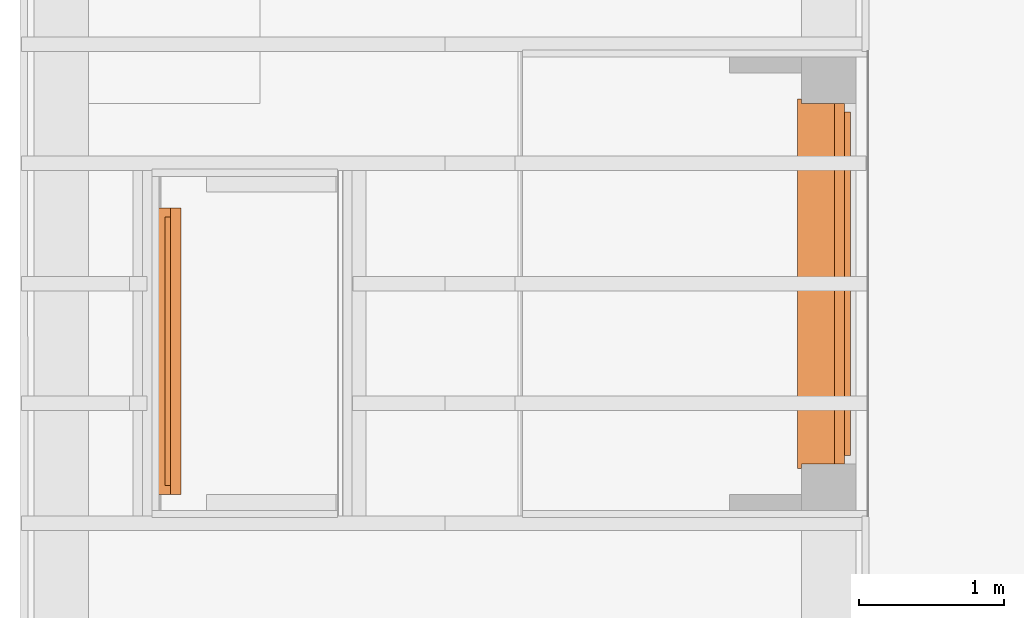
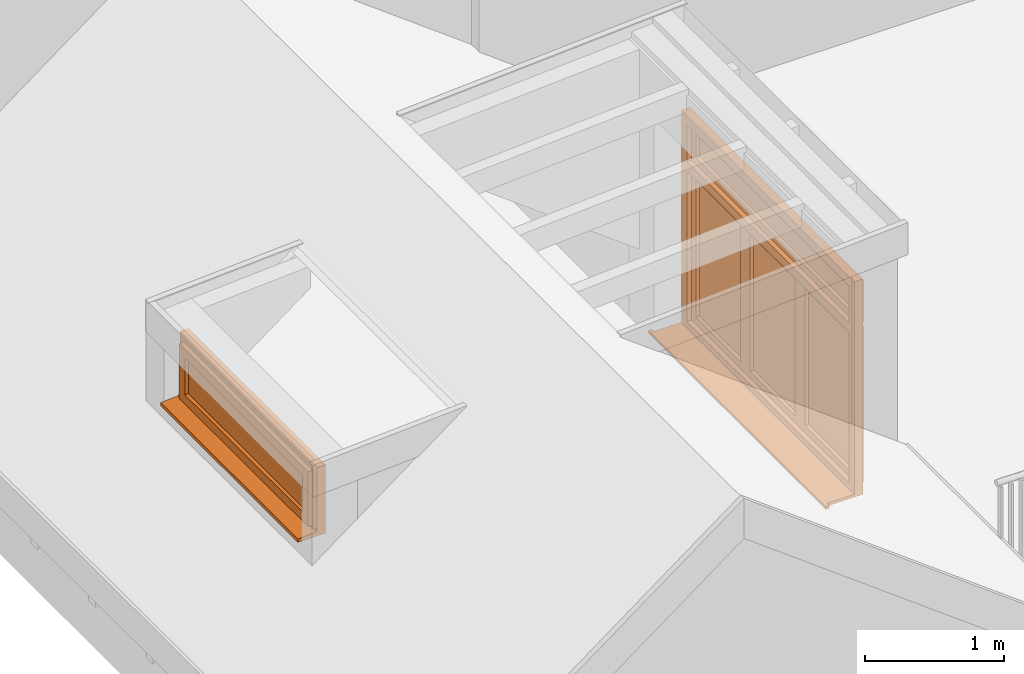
# One storey, part 13 of 15: 2 proxies.
"""IFC4 building model written with IfcOpenShell, lengths in metres."""

from ifc_helpers import new_model, entity, si_unit, converted_unit, derived_unit, direction, frame, origin_with_axes, place, context, subcontext, project, spatial, triangles, type_object, element, save


model = new_model("IFC4")

# Units and contexts
model_context = context("Model", 3, precision=1e-05, world=origin_with_axes(), true_north=direction((-0.526213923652, 0.850352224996)))
body_context = subcontext(model_context, "Body", "Model", "MODEL_VIEW")
ifc_project = project(units=[si_unit("LENGTHUNIT", "METRE"), si_unit("AREAUNIT", "SQUARE_METRE"), si_unit("VOLUMEUNIT", "CUBIC_METRE"), converted_unit("PLANEANGLEUNIT", "DEGREE", entity("IfcPlaneAngleMeasure", 0.0174532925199), si_unit("PLANEANGLEUNIT", "RADIAN"), dimensions=[0, 0, 0, 0, 0, 0, 0]), si_unit("SOLIDANGLEUNIT", "STERADIAN"), converted_unit("TIMEUNIT", "Year", entity("IfcTimeMeasure", 31556926.0), si_unit("TIMEUNIT", "SECOND"), dimensions=[0, 0, 1, 0, 0, 0, 0]), si_unit("MASSUNIT", "GRAM", prefix="KILO"), si_unit("THERMODYNAMICTEMPERATUREUNIT", "DEGREE_CELSIUS"), si_unit("LUMINOUSINTENSITYUNIT", "LUMEN"), si_unit("ENERGYUNIT", "JOULE", prefix="MEGA"), derived_unit("THERMALCONDUCTANCEUNIT", [(si_unit("POWERUNIT", "WATT"), 1), (si_unit("LENGTHUNIT", "METRE"), -1), (si_unit("THERMODYNAMICTEMPERATUREUNIT", "KELVIN"), -1)]), derived_unit("SPECIFICHEATCAPACITYUNIT", [(si_unit("ENERGYUNIT", "JOULE"), 1), (si_unit("MASSUNIT", "GRAM", prefix="KILO"), -1), (si_unit("THERMODYNAMICTEMPERATUREUNIT", "KELVIN"), -1)]), derived_unit("MASSDENSITYUNIT", [(si_unit("MASSUNIT", "GRAM", prefix="KILO"), 1), (si_unit("VOLUMEUNIT", "CUBIC_METRE"), -1)])], contexts=[model_context])

# Site, building, storey
site_placement = place(None, origin_with_axes())
site = spatial("IfcSite", under=ifc_project, at=site_placement, Name="Gelände", CompositionType="ELEMENT")
building_placement = place(site_placement, origin_with_axes())
building = spatial("IfcBuilding", under=site, at=building_placement, Name="Haus vom Nikolaus", CompositionType="ELEMENT")
storey_placement = place(building_placement, frame((0.0, 0.0, 3.75), z_axis=(0.0, 0.0, 1.0), x_axis=(1.0, 0.0, 0.0)))
storey = spatial("IfcBuildingStorey", under=building, at=storey_placement, Name="1. OG", CompositionType="ELEMENT", Elevation=3.75)

# Proxies
building_element_proxy_type_1 = type_object("IfcBuildingElementProxyType", Name="3-Flügelfenster 22", PredefinedType="NOTDEFINED")
proxy_1_placement = place(storey_placement, frame((5.17038204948, 4.7392015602, 0.211961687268), z_axis=(0.0, 0.0, 1.0), x_axis=(2.86144443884e-10, -1.0, 0.0)))
element("IfcBuildingElementProxy", 1, at=proxy_1_placement, inside=storey, type_object=building_element_proxy_type_1, Name="Fenster-011", PredefinedType="NOTDEFINED", context=body_context, shape_type="Tessellation", body=[
    triangles([(2.48299999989, 1.02587272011e-10, 0.025), (2.48299999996, 0.225000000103, 0.0), (2.48299999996, 0.225000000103, 0.025), (2.48299999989, 1.02587272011e-10, 0.0), (0.0, 0.225000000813, 0.0), (0.0, 0.225000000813, 0.025), (2.51299999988, -0.029999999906, 0.025), (-1.07303499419e-10, 8.13084710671e-10, 0.025), (-0.0300000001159, -0.0299999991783, 0.025), (-0.0300000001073, 8.21668955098e-10, 0.025), (2.51299999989, 0.0, 0.025), (2.51299999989, 0.0, 0.0), (2.51299999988, -0.029999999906, 0.0), (-1.07303499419e-10, 8.13084710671e-10, 0.0), (-0.0300000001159, -0.0299999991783, 0.0), (-0.0300000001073, 8.21668955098e-10, 0.0)], [[1, 2, 3], [1, 4, 2], [3, 5, 6], [3, 2, 5], [7, 8, 9], [8, 3, 6], [9, 8, 10], [11, 1, 7], [1, 3, 8], [7, 1, 8], [11, 4, 1], [11, 12, 4], [12, 13, 4], [14, 4, 15], [15, 4, 13], [14, 5, 2], [14, 15, 16], [4, 14, 2], [6, 14, 8], [6, 5, 14], [8, 16, 10], [8, 14, 16], [10, 15, 9], [10, 16, 15], [9, 13, 7], [9, 15, 13], [7, 12, 11], [7, 13, 12]], closed=True),
    triangles([(0.0799999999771, 0.29500000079, 0.08), (0.0, 0.225000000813, 0.0), (0.0, 0.295000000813, 0.0), (0.0799999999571, 0.22500000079, 0.08), (0.0, 0.295000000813, 1.886), (0.0, 0.225000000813, 1.886), (0.0799999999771, 0.29500000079, 1.48), (0.0799999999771, 0.29500000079, 1.806), (0.0799999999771, 0.29500000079, 1.4), (0.0799999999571, 0.22500000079, 1.4), (0.0799999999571, 0.22500000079, 1.48), (0.0799999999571, 0.22500000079, 1.806)], [[1, 2, 3], [1, 4, 2], [2, 5, 3], [5, 2, 6], [7, 5, 8], [5, 9, 3], [9, 5, 7], [1, 3, 9], [9, 4, 1], [9, 10, 4], [6, 2, 10], [10, 2, 4], [6, 10, 11], [6, 11, 12], [6, 8, 5], [8, 6, 12], [8, 11, 7], [8, 12, 11], [7, 10, 9], [7, 11, 10]], closed=True),
    triangles([(2.48299999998, 0.295000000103, 1.886), (2.48299999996, 0.225000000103, 0.0), (2.48299999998, 0.295000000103, 0.0), (2.48299999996, 0.225000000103, 1.886), (2.40299999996, 0.225000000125, 0.08), (2.40299999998, 0.295000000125, 0.08), (2.40299999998, 0.295000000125, 1.4), (2.40299999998, 0.295000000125, 1.48), (2.40299999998, 0.295000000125, 1.806), (2.40299999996, 0.225000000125, 1.806), (2.40299999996, 0.225000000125, 1.48), (2.40299999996, 0.225000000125, 1.4)], [[1, 2, 3], [1, 4, 2], [3, 5, 6], [3, 2, 5], [1, 3, 7], [7, 3, 6], [1, 7, 8], [1, 8, 9], [9, 4, 1], [9, 10, 4], [11, 4, 10], [4, 12, 2], [12, 4, 11], [5, 2, 12], [6, 12, 7], [6, 5, 12], [7, 11, 8], [7, 12, 11], [8, 10, 9], [8, 11, 10]], closed=True),
    triangles([(2.48299999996, 0.225000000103, 0.0), (0.0, 0.295000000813, 0.0), (2.48299999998, 0.295000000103, 0.0), (0.0, 0.225000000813, 0.0), (0.0799999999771, 0.29500000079, 0.08), (0.0799999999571, 0.22500000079, 0.08), (2.40299999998, 0.295000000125, 0.08), (2.40299999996, 0.225000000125, 0.08)], [[1, 2, 3], [2, 1, 4], [4, 5, 2], [5, 4, 6], [3, 2, 7], [7, 2, 5], [8, 3, 7], [3, 8, 1], [8, 4, 1], [8, 6, 4], [5, 8, 7], [5, 6, 8]], closed=True),
    triangles([(0.0799999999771, 0.29500000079, 1.806), (0.0, 0.225000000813, 1.886), (0.0, 0.295000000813, 1.886), (0.0799999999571, 0.22500000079, 1.806), (2.48299999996, 0.225000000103, 1.886), (2.48299999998, 0.295000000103, 1.886), (2.40299999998, 0.295000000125, 1.806), (2.40299999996, 0.225000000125, 1.806)], [[1, 2, 3], [1, 4, 2], [3, 5, 6], [3, 2, 5], [7, 3, 6], [7, 1, 3], [8, 1, 7], [1, 8, 4], [5, 2, 8], [8, 2, 4], [5, 7, 6], [7, 5, 8]], closed=True),
    triangles([(1.24149999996, 0.225000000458, 1.4), (0.0799999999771, 0.29500000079, 1.4), (1.24149999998, 0.295000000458, 1.4), (0.0799999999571, 0.22500000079, 1.4), (0.0799999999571, 0.22500000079, 1.48), (0.0799999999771, 0.29500000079, 1.48), (2.40299999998, 0.295000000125, 1.48), (2.40299999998, 0.295000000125, 1.4), (2.40299999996, 0.225000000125, 1.4), (2.40299999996, 0.225000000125, 1.48)], [[1, 2, 3], [2, 1, 4], [2, 5, 6], [2, 4, 5], [6, 3, 2], [3, 6, 7], [3, 7, 8], [9, 3, 8], [3, 9, 1], [10, 1, 9], [10, 5, 1], [1, 5, 4], [6, 10, 7], [6, 5, 10], [7, 9, 8], [7, 10, 9]], closed=True),
    triangles([(0.139999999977, 0.295000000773, 0.14), (0.0599999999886, 0.335000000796, 0.06), (0.139999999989, 0.335000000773, 0.14), (0.0599999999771, 0.295000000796, 0.06), (0.0599999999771, 0.295000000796, 1.42), (0.0599999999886, 0.335000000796, 1.42), (0.139999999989, 0.335000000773, 1.34), (0.139999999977, 0.295000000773, 1.34)], [[1, 2, 3], [2, 1, 4], [2, 5, 6], [2, 4, 5], [7, 2, 6], [7, 3, 2], [7, 1, 3], [7, 8, 1], [1, 5, 4], [5, 1, 8], [6, 8, 7], [6, 5, 8]], closed=True),
    triangles([(0.777666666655, 0.335000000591, 0.14), (0.857666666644, 0.295000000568, 0.06), (0.777666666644, 0.295000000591, 0.14), (0.857666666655, 0.335000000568, 0.06), (0.777666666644, 0.295000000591, 1.34), (0.857666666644, 0.295000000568, 1.42), (0.777666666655, 0.335000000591, 1.34), (0.857666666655, 0.335000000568, 1.42)], [[1, 2, 3], [1, 4, 2], [5, 2, 6], [5, 3, 2], [7, 3, 5], [7, 1, 3], [1, 8, 4], [8, 1, 7], [4, 6, 2], [4, 8, 6], [8, 5, 6], [8, 7, 5]], closed=True),
    triangles([(0.857666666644, 0.295000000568, 0.06), (0.0599999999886, 0.335000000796, 0.06), (0.857666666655, 0.335000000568, 0.06), (0.0599999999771, 0.295000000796, 0.06), (0.139999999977, 0.295000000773, 0.14), (0.139999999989, 0.335000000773, 0.14), (0.777666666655, 0.335000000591, 0.14), (0.777666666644, 0.295000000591, 0.14)], [[1, 2, 3], [2, 1, 4], [2, 5, 6], [2, 4, 5], [6, 3, 2], [3, 6, 7], [7, 1, 3], [7, 8, 1], [5, 1, 8], [1, 5, 4], [6, 8, 7], [6, 5, 8]], closed=True),
    triangles([(0.0599999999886, 0.335000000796, 1.42), (0.857666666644, 0.295000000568, 1.42), (0.857666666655, 0.335000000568, 1.42), (0.0599999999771, 0.295000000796, 1.42), (0.139999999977, 0.295000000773, 1.34), (0.777666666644, 0.295000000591, 1.34), (0.777666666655, 0.335000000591, 1.34), (0.139999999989, 0.335000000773, 1.34)], [[1, 2, 3], [2, 1, 4], [5, 2, 4], [2, 5, 6], [7, 2, 6], [7, 3, 2], [8, 3, 7], [3, 8, 1], [1, 5, 4], [1, 8, 5], [8, 6, 5], [8, 7, 6]], closed=True),
    triangles([(0.139999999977, 0.295000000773, 0.14), (0.0799999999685, 0.26500000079, 0.08), (0.0799999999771, 0.29500000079, 0.08), (0.139999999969, 0.265000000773, 0.14), (0.0799999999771, 0.29500000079, 1.4), (0.0799999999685, 0.26500000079, 1.4), (0.139999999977, 0.295000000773, 1.34), (0.139999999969, 0.265000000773, 1.34)], [[1, 2, 3], [1, 4, 2], [2, 5, 3], [5, 2, 6], [7, 3, 5], [7, 1, 3], [7, 4, 1], [7, 8, 4], [6, 2, 8], [8, 2, 4], [5, 8, 7], [5, 6, 8]], closed=True),
    triangles([(0.837666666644, 0.295000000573, 0.08), (0.777666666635, 0.265000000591, 0.14), (0.777666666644, 0.295000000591, 0.14), (0.837666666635, 0.265000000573, 0.08), (0.777666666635, 0.265000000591, 1.34), (0.837666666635, 0.265000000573, 1.4), (0.777666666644, 0.295000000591, 1.34), (0.837666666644, 0.295000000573, 1.4)], [[1, 2, 3], [2, 1, 4], [5, 4, 6], [5, 2, 4], [7, 2, 5], [7, 3, 2], [8, 1, 7], [7, 1, 3], [1, 6, 4], [1, 8, 6], [8, 5, 6], [8, 7, 5]], closed=True),
    triangles([(0.837666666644, 0.295000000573, 0.08), (0.0799999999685, 0.26500000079, 0.08), (0.0799999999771, 0.29500000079, 0.08), (0.837666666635, 0.265000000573, 0.08), (0.139999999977, 0.295000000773, 0.14), (0.139999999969, 0.265000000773, 0.14), (0.777666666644, 0.295000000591, 0.14), (0.777666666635, 0.265000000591, 0.14)], [[1, 2, 3], [1, 4, 2], [2, 5, 3], [5, 2, 6], [5, 1, 3], [1, 5, 7], [8, 1, 7], [1, 8, 4], [8, 2, 4], [8, 6, 2], [6, 7, 5], [7, 6, 8]], closed=True),
    triangles([(0.837666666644, 0.295000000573, 1.4), (0.0799999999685, 0.26500000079, 1.4), (0.837666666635, 0.265000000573, 1.4), (0.0799999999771, 0.29500000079, 1.4), (0.139999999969, 0.265000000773, 1.34), (0.777666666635, 0.265000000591, 1.34), (0.777666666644, 0.295000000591, 1.34), (0.139999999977, 0.295000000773, 1.34)], [[1, 2, 3], [1, 4, 2], [5, 3, 2], [3, 5, 6], [1, 6, 7], [6, 1, 3], [7, 4, 1], [7, 8, 4], [4, 5, 2], [4, 8, 5], [7, 5, 8], [5, 7, 6]], closed=True),
    triangles([(0.777666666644, 0.295000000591, 0.14), (0.13999999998, 0.305000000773, 0.14), (0.777666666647, 0.305000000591, 0.14), (0.139999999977, 0.295000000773, 0.14), (0.139999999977, 0.295000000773, 1.34), (0.13999999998, 0.305000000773, 1.34), (0.777666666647, 0.305000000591, 1.34), (0.777666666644, 0.295000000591, 1.34)], [[1, 2, 3], [2, 1, 4], [2, 5, 6], [2, 4, 5], [7, 2, 6], [7, 3, 2], [7, 1, 3], [7, 8, 1], [8, 4, 1], [8, 5, 4], [6, 8, 7], [6, 5, 8]], closed=True),
    triangles([(0.917666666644, 0.29500000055, 0.14), (0.857666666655, 0.335000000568, 0.06), (0.917666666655, 0.33500000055, 0.14), (0.857666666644, 0.295000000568, 0.06), (0.857666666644, 0.295000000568, 1.42), (0.857666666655, 0.335000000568, 1.42), (0.917666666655, 0.33500000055, 1.34), (0.917666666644, 0.29500000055, 1.34)], [[1, 2, 3], [2, 1, 4], [2, 5, 6], [2, 4, 5], [7, 2, 6], [7, 3, 2], [7, 1, 3], [7, 8, 1], [5, 4, 8], [8, 4, 1], [6, 8, 7], [6, 5, 8]], closed=True),
    triangles([(1.62533333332, 0.335000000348, 1.42), (1.62533333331, 0.295000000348, 0.06), (1.62533333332, 0.335000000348, 0.06), (1.62533333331, 0.295000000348, 1.42), (1.56533333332, 0.335000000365, 0.14), (1.56533333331, 0.295000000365, 0.14), (1.56533333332, 0.335000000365, 1.34), (1.56533333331, 0.295000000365, 1.34)], [[1, 2, 3], [1, 4, 2], [2, 5, 3], [5, 2, 6], [1, 3, 7], [7, 3, 5], [7, 4, 1], [7, 8, 4], [6, 4, 8], [4, 6, 2], [5, 8, 7], [5, 6, 8]], closed=True),
    triangles([(1.62533333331, 0.295000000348, 0.06), (0.857666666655, 0.335000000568, 0.06), (1.62533333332, 0.335000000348, 0.06), (0.857666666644, 0.295000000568, 0.06), (0.917666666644, 0.29500000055, 0.14), (0.917666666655, 0.33500000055, 0.14), (1.56533333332, 0.335000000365, 0.14), (1.56533333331, 0.295000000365, 0.14)], [[1, 2, 3], [2, 1, 4], [2, 5, 6], [2, 4, 5], [6, 3, 2], [3, 6, 7], [7, 1, 3], [7, 8, 1], [5, 1, 8], [1, 5, 4], [6, 8, 7], [6, 5, 8]], closed=True),
    triangles([(0.917666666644, 0.29500000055, 1.34), (0.857666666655, 0.335000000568, 1.42), (0.917666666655, 0.33500000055, 1.34), (0.857666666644, 0.295000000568, 1.42), (1.62533333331, 0.295000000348, 1.42), (1.62533333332, 0.335000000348, 1.42), (1.56533333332, 0.335000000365, 1.34), (1.56533333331, 0.295000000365, 1.34)], [[1, 2, 3], [2, 1, 4], [2, 5, 6], [2, 4, 5], [3, 6, 7], [6, 3, 2], [8, 3, 7], [3, 8, 1], [1, 5, 4], [5, 1, 8], [5, 7, 6], [7, 5, 8]], closed=True),
    triangles([(0.917666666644, 0.29500000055, 0.14), (0.837666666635, 0.265000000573, 0.08), (0.837666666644, 0.295000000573, 0.08), (0.917666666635, 0.26500000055, 0.14), (0.837666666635, 0.265000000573, 1.4), (0.837666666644, 0.295000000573, 1.4), (0.917666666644, 0.29500000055, 1.34), (0.917666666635, 0.26500000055, 1.34)], [[1, 2, 3], [1, 4, 2], [3, 5, 6], [3, 2, 5], [7, 3, 6], [7, 1, 3], [7, 4, 1], [7, 8, 4], [5, 2, 8], [8, 2, 4], [5, 7, 6], [7, 5, 8]], closed=True),
    triangles([(1.64533333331, 0.295000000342, 1.4), (1.6453333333, 0.265000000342, 0.08), (1.64533333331, 0.295000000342, 0.08), (1.6453333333, 0.265000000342, 1.4), (1.56533333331, 0.295000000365, 0.14), (1.5653333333, 0.265000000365, 0.14), (1.56533333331, 0.295000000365, 1.34), (1.5653333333, 0.265000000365, 1.34)], [[1, 2, 3], [1, 4, 2], [2, 5, 3], [5, 2, 6], [1, 3, 7], [7, 3, 5], [7, 4, 1], [7, 8, 4], [8, 2, 4], [8, 6, 2], [5, 8, 7], [5, 6, 8]], closed=True),
    triangles([(1.64533333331, 0.295000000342, 0.08), (0.837666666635, 0.265000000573, 0.08), (0.837666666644, 0.295000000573, 0.08), (1.6453333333, 0.265000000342, 0.08), (0.917666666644, 0.29500000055, 0.14), (0.917666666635, 0.26500000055, 0.14), (1.56533333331, 0.295000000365, 0.14), (1.5653333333, 0.265000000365, 0.14)], [[1, 2, 3], [1, 4, 2], [2, 5, 3], [5, 2, 6], [1, 3, 7], [7, 3, 5], [7, 4, 1], [7, 8, 4], [8, 2, 4], [8, 6, 2], [6, 7, 5], [7, 6, 8]], closed=True),
    triangles([(0.917666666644, 0.29500000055, 1.34), (0.837666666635, 0.265000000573, 1.4), (0.837666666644, 0.295000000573, 1.4), (0.917666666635, 0.26500000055, 1.34), (1.64533333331, 0.295000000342, 1.4), (1.6453333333, 0.265000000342, 1.4), (1.56533333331, 0.295000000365, 1.34), (1.5653333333, 0.265000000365, 1.34)], [[1, 2, 3], [1, 4, 2], [2, 5, 3], [5, 2, 6], [7, 3, 5], [7, 1, 3], [7, 4, 1], [7, 8, 4], [4, 6, 2], [6, 4, 8], [6, 7, 5], [7, 6, 8]], closed=True),
    triangles([(1.56533333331, 0.295000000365, 0.14), (0.917666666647, 0.30500000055, 0.14), (1.56533333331, 0.305000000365, 0.14), (0.917666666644, 0.29500000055, 0.14), (0.917666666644, 0.29500000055, 1.34), (0.917666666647, 0.30500000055, 1.34), (1.56533333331, 0.305000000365, 1.34), (1.56533333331, 0.295000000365, 1.34)], [[1, 2, 3], [2, 1, 4], [2, 5, 6], [2, 4, 5], [7, 2, 6], [7, 3, 2], [7, 1, 3], [7, 8, 1], [8, 4, 1], [8, 5, 4], [6, 8, 7], [6, 5, 8]], closed=True),
    triangles([(1.70533333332, 0.335000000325, 0.14), (1.62533333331, 0.295000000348, 0.06), (1.62533333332, 0.335000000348, 0.06), (1.70533333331, 0.295000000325, 0.14), (1.62533333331, 0.295000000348, 1.42), (1.62533333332, 0.335000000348, 1.42), (1.70533333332, 0.335000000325, 1.34), (1.70533333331, 0.295000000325, 1.34)], [[1, 2, 3], [1, 4, 2], [3, 5, 6], [3, 2, 5], [7, 3, 6], [7, 1, 3], [7, 4, 1], [7, 8, 4], [5, 2, 8], [8, 2, 4], [6, 8, 7], [6, 5, 8]], closed=True),
    triangles([(2.34299999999, 0.335000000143, 0.14), (2.42299999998, 0.29500000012, 0.06), (2.34299999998, 0.295000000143, 0.14), (2.42299999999, 0.33500000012, 0.06), (2.34299999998, 0.295000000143, 1.34), (2.42299999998, 0.29500000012, 1.42), (2.34299999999, 0.335000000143, 1.34), (2.42299999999, 0.33500000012, 1.42)], [[1, 2, 3], [1, 4, 2], [5, 2, 6], [5, 3, 2], [7, 3, 5], [7, 1, 3], [8, 4, 7], [7, 4, 1], [4, 6, 2], [4, 8, 6], [7, 6, 8], [6, 7, 5]], closed=True),
    triangles([(2.42299999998, 0.29500000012, 0.06), (1.62533333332, 0.335000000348, 0.06), (2.42299999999, 0.33500000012, 0.06), (1.62533333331, 0.295000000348, 0.06), (1.70533333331, 0.295000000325, 0.14), (1.70533333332, 0.335000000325, 0.14), (2.34299999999, 0.335000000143, 0.14), (2.34299999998, 0.295000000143, 0.14)], [[1, 2, 3], [2, 1, 4], [2, 5, 6], [2, 4, 5], [3, 2, 7], [7, 2, 6], [7, 1, 3], [7, 8, 1], [8, 4, 1], [8, 5, 4], [6, 8, 7], [6, 5, 8]], closed=True),
    triangles([(1.62533333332, 0.335000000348, 1.42), (2.42299999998, 0.29500000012, 1.42), (2.42299999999, 0.33500000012, 1.42), (1.62533333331, 0.295000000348, 1.42), (2.34299999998, 0.295000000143, 1.34), (1.70533333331, 0.295000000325, 1.34), (2.34299999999, 0.335000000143, 1.34), (1.70533333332, 0.335000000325, 1.34)], [[1, 2, 3], [2, 1, 4], [2, 4, 5], [5, 4, 6], [7, 2, 5], [7, 3, 2], [7, 1, 3], [7, 8, 1], [1, 6, 4], [1, 8, 6], [8, 5, 6], [8, 7, 5]], closed=True),
    triangles([(1.70533333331, 0.295000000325, 0.14), (1.6453333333, 0.265000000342, 0.08), (1.64533333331, 0.295000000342, 0.08), (1.7053333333, 0.265000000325, 0.14), (1.6453333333, 0.265000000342, 1.4), (1.64533333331, 0.295000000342, 1.4), (1.70533333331, 0.295000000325, 1.34), (1.7053333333, 0.265000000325, 1.34)], [[1, 2, 3], [1, 4, 2], [3, 5, 6], [3, 2, 5], [7, 3, 6], [7, 1, 3], [7, 4, 1], [7, 8, 4], [5, 2, 8], [8, 2, 4], [5, 7, 6], [7, 5, 8]], closed=True),
    triangles([(2.34299999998, 0.295000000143, 0.14), (2.40299999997, 0.265000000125, 0.08), (2.34299999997, 0.265000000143, 0.14), (2.40299999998, 0.295000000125, 0.08), (2.34299999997, 0.265000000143, 1.34), (2.40299999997, 0.265000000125, 1.4), (2.34299999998, 0.295000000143, 1.34), (2.40299999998, 0.295000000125, 1.4)], [[1, 2, 3], [1, 4, 2], [5, 2, 6], [5, 3, 2], [7, 3, 5], [7, 1, 3], [8, 4, 7], [7, 4, 1], [4, 6, 2], [4, 8, 6], [7, 6, 8], [6, 7, 5]], closed=True),
    triangles([(2.40299999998, 0.295000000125, 0.08), (1.6453333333, 0.265000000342, 0.08), (1.64533333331, 0.295000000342, 0.08), (2.40299999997, 0.265000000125, 0.08), (1.70533333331, 0.295000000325, 0.14), (1.7053333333, 0.265000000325, 0.14), (2.34299999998, 0.295000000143, 0.14), (2.34299999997, 0.265000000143, 0.14)], [[1, 2, 3], [1, 4, 2], [2, 5, 3], [5, 2, 6], [1, 3, 7], [7, 3, 5], [7, 4, 1], [7, 8, 4], [8, 2, 4], [8, 6, 2], [6, 7, 5], [7, 6, 8]], closed=True),
    triangles([(2.40299999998, 0.295000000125, 1.4), (1.6453333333, 0.265000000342, 1.4), (2.40299999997, 0.265000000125, 1.4), (1.64533333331, 0.295000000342, 1.4), (1.7053333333, 0.265000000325, 1.34), (2.34299999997, 0.265000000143, 1.34), (2.34299999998, 0.295000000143, 1.34), (1.70533333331, 0.295000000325, 1.34)], [[1, 2, 3], [1, 4, 2], [5, 3, 2], [3, 5, 6], [7, 3, 6], [7, 1, 3], [7, 4, 1], [7, 8, 4], [8, 2, 4], [2, 8, 5], [8, 6, 5], [8, 7, 6]], closed=True),
    triangles([(2.34299999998, 0.295000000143, 0.14), (1.70533333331, 0.305000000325, 0.14), (2.34299999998, 0.305000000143, 0.14), (1.70533333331, 0.295000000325, 0.14), (1.70533333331, 0.295000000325, 1.34), (1.70533333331, 0.305000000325, 1.34), (2.34299999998, 0.305000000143, 1.34), (2.34299999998, 0.295000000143, 1.34)], [[1, 2, 3], [2, 1, 4], [2, 5, 6], [2, 4, 5], [7, 2, 6], [7, 3, 2], [7, 1, 3], [7, 8, 1], [8, 4, 1], [8, 5, 4], [6, 8, 7], [6, 5, 8]], closed=True),
    triangles([(0.139999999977, 0.295000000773, 1.54), (0.0599999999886, 0.335000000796, 1.46), (0.139999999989, 0.335000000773, 1.54), (0.0599999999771, 0.295000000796, 1.46), (0.0599999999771, 0.295000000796, 1.826), (0.0599999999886, 0.335000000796, 1.826), (0.139999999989, 0.335000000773, 1.746), (0.139999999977, 0.295000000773, 1.746)], [[1, 2, 3], [2, 1, 4], [2, 5, 6], [2, 4, 5], [3, 6, 7], [6, 3, 2], [7, 1, 3], [7, 8, 1], [1, 5, 4], [5, 1, 8], [6, 8, 7], [6, 5, 8]], closed=True),
    triangles([(2.34299999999, 0.335000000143, 1.54), (2.42299999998, 0.29500000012, 1.46), (2.34299999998, 0.295000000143, 1.54), (2.42299999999, 0.33500000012, 1.46), (2.42299999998, 0.29500000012, 1.826), (2.34299999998, 0.295000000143, 1.746), (2.34299999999, 0.335000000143, 1.746), (2.42299999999, 0.33500000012, 1.826)], [[1, 2, 3], [1, 4, 2], [3, 5, 6], [5, 3, 2], [7, 3, 6], [7, 1, 3], [1, 8, 4], [8, 1, 7], [4, 5, 2], [4, 8, 5], [7, 5, 8], [5, 7, 6]], closed=True),
    triangles([(2.42299999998, 0.29500000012, 1.46), (0.0599999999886, 0.335000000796, 1.46), (2.42299999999, 0.33500000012, 1.46), (0.0599999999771, 0.295000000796, 1.46), (0.139999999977, 0.295000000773, 1.54), (0.139999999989, 0.335000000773, 1.54), (2.34299999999, 0.335000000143, 1.54), (2.34299999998, 0.295000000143, 1.54)], [[1, 2, 3], [2, 1, 4], [2, 5, 6], [2, 4, 5], [3, 2, 7], [7, 2, 6], [7, 1, 3], [7, 8, 1], [8, 4, 1], [8, 5, 4], [6, 8, 7], [6, 5, 8]], closed=True),
    triangles([(0.0599999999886, 0.335000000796, 1.826), (2.42299999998, 0.29500000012, 1.826), (2.42299999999, 0.33500000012, 1.826), (0.0599999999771, 0.295000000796, 1.826), (2.34299999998, 0.295000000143, 1.746), (0.139999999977, 0.295000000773, 1.746), (2.34299999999, 0.335000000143, 1.746), (0.139999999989, 0.335000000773, 1.746)], [[1, 2, 3], [2, 1, 4], [2, 4, 5], [5, 4, 6], [7, 2, 5], [7, 3, 2], [7, 1, 3], [7, 8, 1], [1, 6, 4], [1, 8, 6], [8, 5, 6], [8, 7, 5]], closed=True),
    triangles([(0.139999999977, 0.295000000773, 1.54), (0.0799999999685, 0.26500000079, 1.48), (0.0799999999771, 0.29500000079, 1.48), (0.139999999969, 0.265000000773, 1.54), (0.0799999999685, 0.26500000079, 1.806), (0.0799999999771, 0.29500000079, 1.806), (0.139999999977, 0.295000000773, 1.746), (0.139999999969, 0.265000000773, 1.746)], [[1, 2, 3], [1, 4, 2], [3, 5, 6], [3, 2, 5], [7, 3, 6], [7, 1, 3], [7, 4, 1], [7, 8, 4], [5, 2, 8], [8, 2, 4], [5, 7, 6], [7, 5, 8]], closed=True),
    triangles([(2.34299999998, 0.295000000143, 1.54), (2.40299999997, 0.265000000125, 1.48), (2.34299999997, 0.265000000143, 1.54), (2.40299999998, 0.295000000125, 1.48), (2.34299999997, 0.265000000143, 1.746), (2.40299999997, 0.265000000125, 1.806), (2.34299999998, 0.295000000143, 1.746), (2.40299999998, 0.295000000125, 1.806)], [[1, 2, 3], [1, 4, 2], [5, 2, 6], [5, 3, 2], [7, 3, 5], [7, 1, 3], [8, 4, 7], [7, 4, 1], [4, 6, 2], [4, 8, 6], [7, 6, 8], [6, 7, 5]], closed=True),
    triangles([(2.40299999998, 0.295000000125, 1.48), (0.0799999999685, 0.26500000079, 1.48), (0.0799999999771, 0.29500000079, 1.48), (2.40299999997, 0.265000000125, 1.48), (0.139999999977, 0.295000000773, 1.54), (0.139999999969, 0.265000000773, 1.54), (2.34299999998, 0.295000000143, 1.54), (2.34299999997, 0.265000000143, 1.54)], [[1, 2, 3], [1, 4, 2], [2, 5, 3], [5, 2, 6], [1, 3, 7], [7, 3, 5], [7, 4, 1], [7, 8, 4], [8, 2, 4], [8, 6, 2], [6, 7, 5], [7, 6, 8]], closed=True),
    triangles([(2.40299999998, 0.295000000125, 1.806), (0.0799999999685, 0.26500000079, 1.806), (2.40299999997, 0.265000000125, 1.806), (0.0799999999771, 0.29500000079, 1.806), (2.34299999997, 0.265000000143, 1.746), (0.139999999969, 0.265000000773, 1.746), (2.34299999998, 0.295000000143, 1.746), (0.139999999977, 0.295000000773, 1.746)], [[1, 2, 3], [1, 4, 2], [3, 2, 5], [5, 2, 6], [7, 3, 5], [7, 1, 3], [7, 4, 1], [7, 8, 4], [8, 2, 4], [2, 8, 6], [8, 5, 6], [8, 7, 5]], closed=True),
    triangles([(2.34299999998, 0.295000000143, 1.54), (0.13999999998, 0.305000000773, 1.54), (2.34299999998, 0.305000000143, 1.54), (0.139999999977, 0.295000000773, 1.54), (0.139999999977, 0.295000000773, 1.746), (0.13999999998, 0.305000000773, 1.746), (2.34299999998, 0.305000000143, 1.746), (2.34299999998, 0.295000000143, 1.746)], [[1, 2, 3], [2, 1, 4], [2, 5, 6], [2, 4, 5], [7, 2, 6], [7, 3, 2], [7, 1, 3], [7, 8, 1], [8, 4, 1], [8, 5, 4], [6, 8, 7], [6, 5, 8]], closed=True),
])
building_element_proxy_type_2 = type_object("IfcBuildingElementProxyType", Name="1-Flügelfenster 22", PredefinedType="NOTDEFINED")
proxy_2_placement = place(storey_placement, frame((1.07137535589, 2.04768286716, 1.59795486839), z_axis=(0.0, 0.0, 1.0), x_axis=(2.86144221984e-10, 1.0, 0.0)))
element("IfcBuildingElementProxy", 2, at=proxy_2_placement, inside=storey, type_object=building_element_proxy_type_2, Name="Fenster-011", PredefinedType="NOTDEFINED", context=body_context, shape_type="Tessellation", body=[
    triangles([(1.97047399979, 0.245000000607, 0.05), (0.0, 0.245000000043, 0.0), (1.97047399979, 0.245000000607, 0.0), (0.0, 0.245000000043, 0.05), (-1.1102363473e-10, 0.388000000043, 0.0), (1.97047399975, 0.388000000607, 0.0), (1.97047399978, 0.255000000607, 0.04), (1.97047399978, 0.255000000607, 0.05), (1.97047399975, 0.388000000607, 0.007), (1.97047399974, 0.405000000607, 0.0), (1.97047399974, 0.395000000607, 0.007), (1.97047399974, 0.395000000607, 0.0), (1.97047399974, 0.405000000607, 0.03), (0.0, 0.255000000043, 0.05), (-1.13026921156e-10, 0.395000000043, 0.007), (-1.1102363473e-10, 0.388000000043, 0.007), (-1.15888187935e-10, 0.405000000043, 0.03), (0.0, 0.255000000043, 0.04), (-1.15888187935e-10, 0.405000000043, 0.0), (-1.13026921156e-10, 0.395000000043, 0.0)], [[1, 2, 3], [1, 4, 2], [3, 5, 6], [3, 2, 5], [7, 8, 1], [7, 6, 9], [10, 11, 12], [13, 9, 11], [10, 13, 11], [13, 7, 9], [7, 1, 3], [6, 7, 3], [14, 1, 8], [1, 14, 4], [15, 16, 17], [18, 4, 14], [4, 18, 2], [2, 18, 5], [15, 19, 20], [19, 15, 17], [18, 16, 5], [18, 17, 16], [6, 16, 9], [6, 5, 16], [9, 15, 11], [9, 16, 15], [11, 20, 12], [11, 15, 20], [12, 19, 10], [12, 20, 19], [10, 17, 13], [10, 19, 17], [17, 7, 13], [7, 17, 18], [7, 14, 8], [7, 18, 14]], closed=True),
    triangles([(1.89047399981, 0.175000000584, 0.08), (1.97047399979, 0.245000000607, 0.0), (1.97047399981, 0.175000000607, 0.0), (1.89047399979, 0.245000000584, 0.08), (1.97047399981, 0.175000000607, 0.6), (1.97047399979, 0.245000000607, 0.6), (1.89047399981, 0.175000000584, 0.52), (1.89047399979, 0.245000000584, 0.52)], [[1, 2, 3], [1, 4, 2], [2, 5, 3], [5, 2, 6], [7, 3, 5], [3, 7, 1], [7, 4, 1], [7, 8, 4], [4, 6, 2], [4, 8, 6], [6, 7, 5], [7, 6, 8]], closed=True),
    triangles([(0.0, 0.175000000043, 0.6), (0.0, 0.245000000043, 0.0), (0.0, 0.175000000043, 0.0), (0.0, 0.245000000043, 0.6), (0.0799999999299, 0.245000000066, 0.08), (0.0799999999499, 0.175000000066, 0.08), (0.0799999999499, 0.175000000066, 0.52), (0.0799999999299, 0.245000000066, 0.52)], [[1, 2, 3], [1, 4, 2], [3, 5, 6], [3, 2, 5], [6, 1, 3], [6, 7, 1], [8, 1, 7], [1, 8, 4], [8, 2, 4], [2, 8, 5], [6, 8, 7], [6, 5, 8]], closed=True),
    triangles([(0.0, 0.175000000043, 0.0), (1.97047399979, 0.245000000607, 0.0), (1.97047399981, 0.175000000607, 0.0), (0.0, 0.245000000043, 0.0), (1.89047399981, 0.175000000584, 0.08), (1.89047399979, 0.245000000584, 0.08), (0.0799999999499, 0.175000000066, 0.08), (0.0799999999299, 0.245000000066, 0.08)], [[1, 2, 3], [1, 4, 2], [2, 5, 3], [5, 2, 6], [7, 3, 5], [3, 7, 1], [8, 1, 7], [1, 8, 4], [2, 4, 6], [8, 6, 4], [6, 7, 5], [7, 6, 8]], closed=True),
    triangles([(1.89047399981, 0.175000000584, 0.52), (1.97047399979, 0.245000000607, 0.6), (1.97047399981, 0.175000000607, 0.6), (1.89047399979, 0.245000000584, 0.52), (0.0, 0.175000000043, 0.6), (0.0, 0.245000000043, 0.6), (0.0799999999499, 0.175000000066, 0.52), (0.0799999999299, 0.245000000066, 0.52)], [[1, 2, 3], [1, 4, 2], [2, 5, 3], [5, 2, 6], [7, 3, 5], [3, 7, 1], [7, 4, 1], [7, 8, 4], [8, 2, 4], [2, 8, 6], [5, 8, 7], [5, 6, 8]], closed=True),
    triangles([(0.0599999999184, 0.28500000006, 0.06), (0.13999999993, 0.245000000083, 0.14), (0.0599999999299, 0.24500000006, 0.06), (0.139999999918, 0.285000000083, 0.14), (0.0599999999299, 0.24500000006, 0.54), (0.13999999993, 0.245000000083, 0.46), (0.0599999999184, 0.28500000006, 0.54), (0.139999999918, 0.285000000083, 0.46)], [[1, 2, 3], [1, 4, 2], [2, 5, 3], [2, 6, 5], [7, 3, 5], [7, 1, 3], [1, 7, 4], [8, 4, 7], [4, 6, 2], [4, 8, 6], [7, 6, 8], [6, 7, 5]], closed=True),
    triangles([(0.0599999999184, 0.28500000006, 0.54), (1.91047399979, 0.24500000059, 0.54), (1.91047399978, 0.28500000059, 0.54), (0.0599999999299, 0.24500000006, 0.54), (1.83047399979, 0.245000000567, 0.46), (0.13999999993, 0.245000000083, 0.46), (1.83047399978, 0.285000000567, 0.46), (0.139999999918, 0.285000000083, 0.46)], [[1, 2, 3], [2, 1, 4], [2, 4, 5], [6, 5, 4], [7, 2, 5], [7, 3, 2], [8, 3, 7], [3, 8, 1], [1, 6, 4], [1, 8, 6], [8, 5, 6], [8, 7, 5]], closed=True),
    triangles([(0.0799999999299, 0.245000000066, 0.08), (0.139999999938, 0.215000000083, 0.14), (0.0799999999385, 0.215000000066, 0.08), (0.13999999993, 0.245000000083, 0.14), (0.0799999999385, 0.215000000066, 0.52), (0.139999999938, 0.215000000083, 0.46), (0.0799999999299, 0.245000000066, 0.52), (0.13999999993, 0.245000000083, 0.46)], [[1, 2, 3], [1, 4, 2], [2, 5, 3], [2, 6, 5], [7, 3, 5], [7, 1, 3], [1, 7, 4], [8, 4, 7], [4, 6, 2], [4, 8, 6], [7, 6, 8], [6, 7, 5]], closed=True),
    triangles([(0.0799999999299, 0.245000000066, 0.52), (1.8904739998, 0.215000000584, 0.52), (1.89047399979, 0.245000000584, 0.52), (0.0799999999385, 0.215000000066, 0.52), (0.139999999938, 0.215000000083, 0.46), (1.8304739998, 0.215000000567, 0.46), (1.83047399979, 0.245000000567, 0.46), (0.13999999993, 0.245000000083, 0.46)], [[1, 2, 3], [2, 1, 4], [5, 2, 4], [2, 5, 6], [7, 2, 6], [7, 3, 2], [7, 1, 3], [7, 8, 1], [1, 5, 4], [1, 8, 5], [8, 6, 5], [8, 7, 6]], closed=True),
    triangles([(0.139999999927, 0.255000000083, 0.14), (1.83047399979, 0.245000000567, 0.14), (0.13999999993, 0.245000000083, 0.14), (1.83047399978, 0.255000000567, 0.14), (1.83047399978, 0.255000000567, 0.46), (1.83047399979, 0.245000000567, 0.46), (0.13999999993, 0.245000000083, 0.46), (0.139999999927, 0.255000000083, 0.46)], [[1, 2, 3], [2, 1, 4], [2, 5, 6], [2, 4, 5], [6, 3, 2], [6, 7, 3], [7, 1, 3], [7, 8, 1], [1, 5, 4], [1, 8, 5], [6, 8, 7], [6, 5, 8]], closed=True),
    triangles([(1.83047399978, 0.285000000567, 0.14), (1.91047399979, 0.24500000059, 0.06), (1.83047399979, 0.245000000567, 0.14), (1.91047399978, 0.28500000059, 0.06), (1.91047399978, 0.28500000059, 0.54), (1.91047399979, 0.24500000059, 0.54), (1.83047399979, 0.245000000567, 0.46), (1.83047399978, 0.285000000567, 0.46)], [[1, 2, 3], [2, 1, 4], [2, 5, 6], [2, 4, 5], [2, 6, 3], [7, 3, 6], [7, 1, 3], [7, 8, 1], [1, 5, 4], [1, 8, 5], [6, 8, 7], [6, 5, 8]], closed=True),
    triangles([(0.0599999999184, 0.28500000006, 0.06), (1.91047399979, 0.24500000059, 0.06), (0.0599999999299, 0.24500000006, 0.06), (1.91047399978, 0.28500000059, 0.06), (1.83047399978, 0.285000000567, 0.14), (1.83047399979, 0.245000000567, 0.14), (0.13999999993, 0.245000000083, 0.14), (0.139999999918, 0.285000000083, 0.14)], [[1, 2, 3], [2, 1, 4], [2, 5, 6], [2, 4, 5], [7, 2, 6], [2, 7, 3], [7, 1, 3], [7, 8, 1], [4, 1, 5], [8, 5, 1], [6, 8, 7], [6, 5, 8]], closed=True),
    triangles([(1.83047399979, 0.245000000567, 0.14), (1.8904739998, 0.215000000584, 0.08), (1.8304739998, 0.215000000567, 0.14), (1.89047399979, 0.245000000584, 0.08), (1.89047399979, 0.245000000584, 0.52), (1.8904739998, 0.215000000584, 0.52), (1.8304739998, 0.215000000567, 0.46), (1.83047399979, 0.245000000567, 0.46)], [[1, 2, 3], [2, 1, 4], [2, 5, 6], [2, 4, 5], [2, 6, 3], [7, 3, 6], [7, 1, 3], [7, 8, 1], [1, 5, 4], [1, 8, 5], [6, 8, 7], [6, 5, 8]], closed=True),
    triangles([(0.0799999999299, 0.245000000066, 0.08), (1.8904739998, 0.215000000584, 0.08), (0.0799999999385, 0.215000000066, 0.08), (1.89047399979, 0.245000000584, 0.08), (1.83047399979, 0.245000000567, 0.14), (1.8304739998, 0.215000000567, 0.14), (0.139999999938, 0.215000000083, 0.14), (0.13999999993, 0.245000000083, 0.14)], [[1, 2, 3], [2, 1, 4], [2, 5, 6], [2, 4, 5], [6, 3, 2], [6, 7, 3], [7, 1, 3], [7, 8, 1], [4, 1, 5], [8, 5, 1], [6, 8, 7], [6, 5, 8]], closed=True),
])

save(model, "model.ifc")
